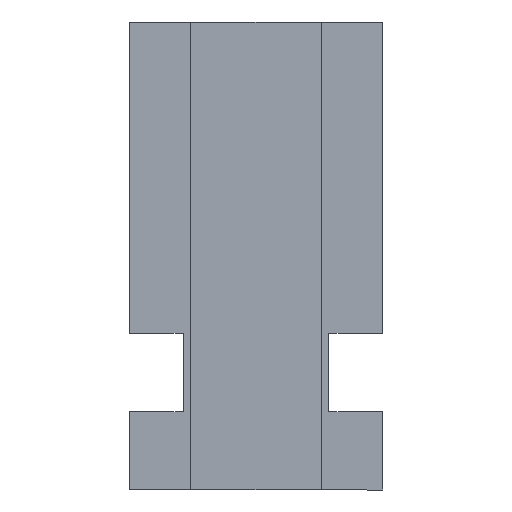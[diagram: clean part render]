
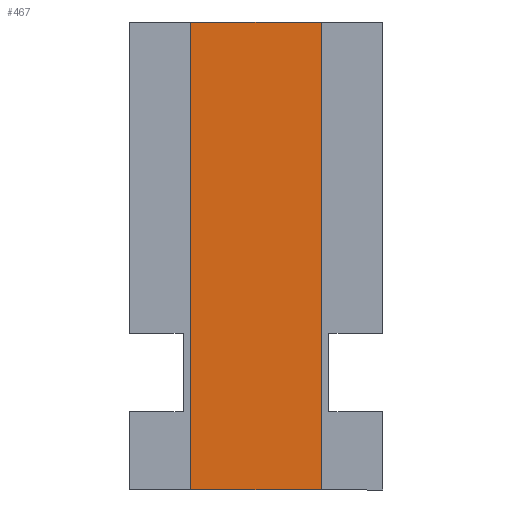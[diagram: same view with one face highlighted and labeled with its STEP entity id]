
A CAD part, front view. The second image highlights one B-rep face of the part: STEP entity #467.
In plain terms, the highlighted planar face has unit normal (0, -1, 0).
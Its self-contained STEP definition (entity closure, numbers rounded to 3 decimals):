
#20=FACE_OUTER_BOUND('',#46,.T.);
#46=EDGE_LOOP('',(#304,#305,#306,#307));
#68=LINE('',#637,#128);
#72=LINE('',#645,#132);
#75=LINE('',#651,#135);
#78=LINE('',#656,#138);
#128=VECTOR('',#523,3.05);
#132=VECTOR('',#529,0.85);
#135=VECTOR('',#534,3.05);
#138=VECTOR('',#539,0.85);
#188=VERTEX_POINT('',#635);
#189=VERTEX_POINT('',#636);
#192=VERTEX_POINT('',#644);
#194=VERTEX_POINT('',#650);
#228=EDGE_CURVE('',#188,#189,#68,.T.);
#232=EDGE_CURVE('',#189,#192,#72,.T.);
#235=EDGE_CURVE('',#192,#194,#75,.T.);
#238=EDGE_CURVE('',#194,#188,#78,.T.);
#304=ORIENTED_EDGE('',*,*,#238,.T.);
#305=ORIENTED_EDGE('',*,*,#228,.T.);
#306=ORIENTED_EDGE('',*,*,#232,.T.);
#307=ORIENTED_EDGE('',*,*,#235,.T.);
#412=PLANE('',#497);
#467=ADVANCED_FACE('',(#20),#412,.F.);
#497=AXIS2_PLACEMENT_3D('',#658,#541,#542);
#523=DIRECTION('',(0.,0.,1.));
#529=DIRECTION('',(-1.,0.,0.));
#534=DIRECTION('',(0.,0.,-1.));
#539=DIRECTION('',(1.,0.,0.));
#541=DIRECTION('center_axis',(0.,1.,0.));
#542=DIRECTION('ref_axis',(0.,0.,1.));
#635=CARTESIAN_POINT('',(0.85,0.,0.));
#636=CARTESIAN_POINT('',(0.85,0.,3.05));
#637=CARTESIAN_POINT('',(0.85,0.,0.));
#644=CARTESIAN_POINT('',(0.,0.,3.05));
#645=CARTESIAN_POINT('',(0.85,0.,3.05));
#650=CARTESIAN_POINT('',(0.,0.,0.));
#651=CARTESIAN_POINT('',(0.,0.,3.05));
#656=CARTESIAN_POINT('',(0.,0.,0.));
#658=CARTESIAN_POINT('Origin',(0.425,0.,1.525));
